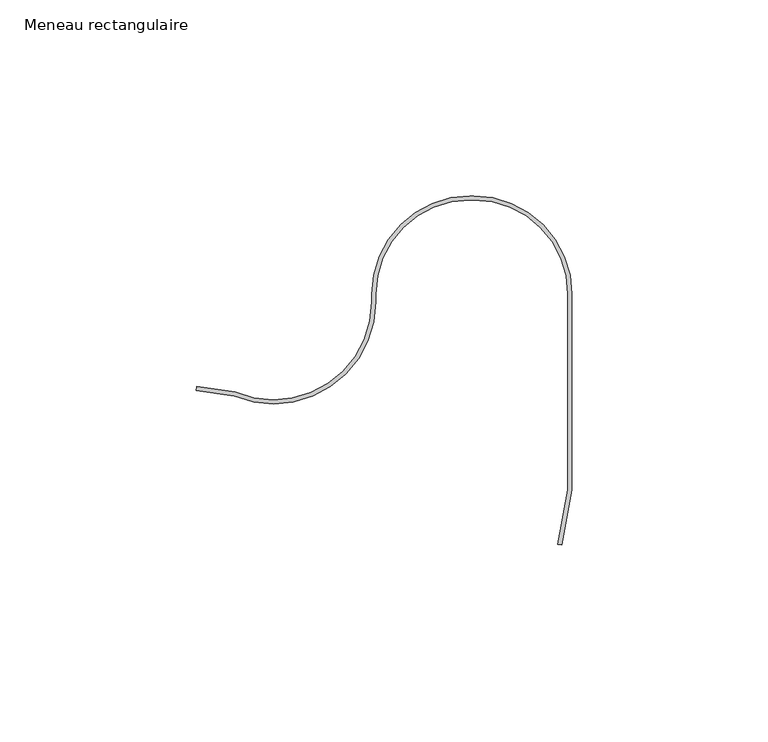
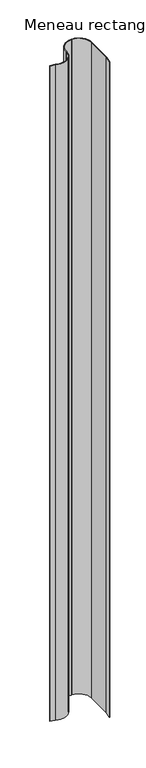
"""IFC4 building model written with IfcOpenShell, lengths in millimetres: member geometry, Meneau rectangulaire : Jonction contre mur Gauche V."""

from ifc_helpers import new_model, si_unit, point, frame, frame_2d, origin, place, context, project, spatial, polyline, circle_curve, trimmed, segment, composite_curve, outline, extrude, source, transform, mapped, element, save


def meneau_rectangulaire_151b46ef(model_context):
    return source(origin(), model_context, "Body", "SweptSolid", [
        extrude(outline(composite_curve([segment(polyline([(-1.0, -25.3470857), (-1.0, 24.6529143)]), True, "CONTINUOUS"), segment(trimmed(circle_curve(frame_2d((-25.0, 24.6529143)), 24.0), [point((-1.0, 24.6529143))], [point((-25.0, 48.6529143))], True, "CARTESIAN"), True, "CONTINUOUS"), segment(polyline([(-25.0, 48.6529143), (-26.0, 48.6529143)]), True, "CONTINUOUS"), segment(trimmed(circle_curve(frame_2d((-26.0, 24.6529143)), 24.0), [point((-26.0, 48.6529143))], [point((-50.0, 24.6529143))], True, "CARTESIAN"), True, "CONTINUOUS"), segment(polyline([(-50.0, 24.6529143), (-50.0, 22.6317013)]), True, "CONTINUOUS"), segment(trimmed(circle_curve(frame_2d((-76.0, 22.6317013)), 26.0), [point((-50.0, 22.6317013))], [point((-86.0341553, -1.3540388))], False, "CARTESIAN"), True, "CONTINUOUS"), segment(polyline([(-86.0341553, -1.3540388), (-95.8078149, 0.0195595), (-95.6686418, 1.0098276), (-85.7659612, -0.3819034)]), True, "CONTINUOUS"), segment(trimmed(circle_curve(frame_2d((-76.0, 22.6317013)), 25.0), [point((-85.7659612, -0.3819034))], [point((-51.0, 22.6317013))], True, "CARTESIAN"), True, "CONTINUOUS"), segment(polyline([(-51.0, 22.6317013), (-51.0, 24.6529143)]), True, "CONTINUOUS"), segment(trimmed(circle_curve(frame_2d((-26.0, 24.6529143)), 25.0), [point((-51.0, 24.6529143))], [point((-26.0, 49.6529143))], False, "CARTESIAN"), True, "CONTINUOUS"), segment(polyline([(-26.0, 49.6529143), (-25.0, 49.6529143)]), True, "CONTINUOUS"), segment(trimmed(circle_curve(frame_2d((-25.0, 24.6529143)), 25.0), [point((-25.0, 49.6529143))], [point((0.0, 24.6529143))], False, "CARTESIAN"), True, "CONTINUOUS"), segment(polyline([(0.0, 24.6529143), (0.0, -25.3470857), (-2.6384309, -39.3947769), (-3.6043568, -39.2133572), (-1.0, -25.3470857)]), True, "CONTINUOUS")], self_intersect=False)), frame((0.0, 0.0, -1340.0), z_axis=(0.0, 0.0, 1.0), x_axis=(1.0, 0.0, 0.0)), (0.0, 0.0, 1.0), 1340.0),
    ])


if __name__ == "__main__":
    model = new_model("IFC4")
    model_context = context("Model", 3, world=origin())
    ifc_project = project(units=[si_unit("LENGTHUNIT", "METRE", prefix="MILLI")], contexts=[model_context])
    site = spatial("IfcSite", under=ifc_project)
    building = spatial("IfcBuilding", under=site)
    placement = place(None, origin())
    meneau_rectangulaire_shape = meneau_rectangulaire_151b46ef(model_context)
    element("IfcMember", 1, ObjectType="Meneau rectangulaire : Jonction contre mur Gauche V", at=placement, inside=building, context=model_context, shape_type="MappedRepresentation", body=[
        mapped(meneau_rectangulaire_shape, transform((0.0, 0.0, 0.0), x_axis=(1.0, 0.0, 0.0), y_axis=(0.0, 1.0, 0.0), z_axis=(0.0, 0.0, 1.0))),
    ])
    save(model, "model.ifc")
